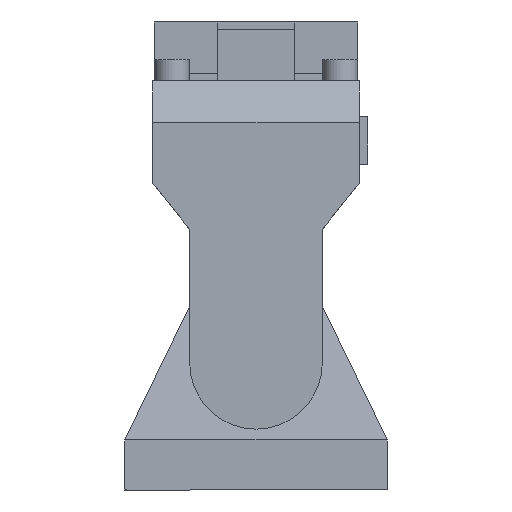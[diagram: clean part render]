
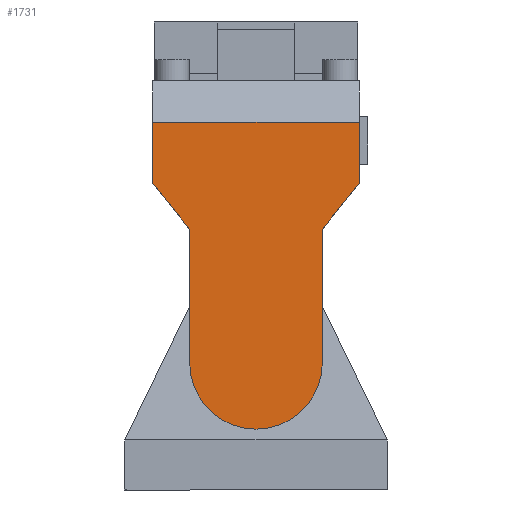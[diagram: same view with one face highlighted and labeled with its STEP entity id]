
A CAD part, left-side view. The second image highlights one B-rep face of the part: STEP entity #1731.
In plain terms, the highlighted planar face has unit normal (-1, 0, 0).
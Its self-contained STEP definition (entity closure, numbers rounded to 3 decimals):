
#74=CIRCLE('',#1950,47.314);
#128=FACE_OUTER_BOUND('',#226,.T.);
#226=EDGE_LOOP('',(#1204,#1205,#1206,#1207,#1208,#1209,#1210,#1211));
#347=LINE('',#2632,#556);
#348=LINE('',#2634,#557);
#349=LINE('',#2636,#558);
#350=LINE('',#2638,#559);
#351=LINE('',#2640,#560);
#352=LINE('',#2642,#561);
#353=LINE('',#2643,#562);
#556=VECTOR('',#2149,10.);
#557=VECTOR('',#2150,10.);
#558=VECTOR('',#2151,10.);
#559=VECTOR('',#2152,10.);
#560=VECTOR('',#2153,10.);
#561=VECTOR('',#2154,10.);
#562=VECTOR('',#2155,10.);
#768=VERTEX_POINT('',#2628);
#769=VERTEX_POINT('',#2629);
#770=VERTEX_POINT('',#2631);
#771=VERTEX_POINT('',#2633);
#772=VERTEX_POINT('',#2635);
#773=VERTEX_POINT('',#2637);
#774=VERTEX_POINT('',#2639);
#775=VERTEX_POINT('',#2641);
#940=EDGE_CURVE('',#768,#769,#74,.T.);
#941=EDGE_CURVE('',#768,#770,#347,.T.);
#942=EDGE_CURVE('',#770,#771,#348,.T.);
#943=EDGE_CURVE('',#771,#772,#349,.T.);
#944=EDGE_CURVE('',#772,#773,#350,.T.);
#945=EDGE_CURVE('',#774,#773,#351,.T.);
#946=EDGE_CURVE('',#775,#774,#352,.T.);
#947=EDGE_CURVE('',#769,#775,#353,.T.);
#1204=ORIENTED_EDGE('',*,*,#940,.F.);
#1205=ORIENTED_EDGE('',*,*,#941,.T.);
#1206=ORIENTED_EDGE('',*,*,#942,.T.);
#1207=ORIENTED_EDGE('',*,*,#943,.T.);
#1208=ORIENTED_EDGE('',*,*,#944,.T.);
#1209=ORIENTED_EDGE('',*,*,#945,.F.);
#1210=ORIENTED_EDGE('',*,*,#946,.F.);
#1211=ORIENTED_EDGE('',*,*,#947,.F.);
#1645=PLANE('',#1949);
#1731=ADVANCED_FACE('',(#128),#1645,.F.);
#1949=AXIS2_PLACEMENT_3D('',#2627,#2145,#2146);
#1950=AXIS2_PLACEMENT_3D('',#2630,#2147,#2148);
#2145=DIRECTION('center_axis',(1.,0.,0.));
#2146=DIRECTION('ref_axis',(0.,0.,-1.));
#2147=DIRECTION('center_axis',(1.,0.,0.));
#2148=DIRECTION('ref_axis',(0.,-1.,0.));
#2149=DIRECTION('',(0.,0.,1.));
#2150=DIRECTION('',(0.,-0.627,0.779));
#2151=DIRECTION('',(0.,0.,1.));
#2152=DIRECTION('',(0.,1.,0.));
#2153=DIRECTION('',(0.,0.,1.));
#2154=DIRECTION('',(0.,0.627,0.779));
#2155=DIRECTION('',(0.,0.,1.));
#2627=CARTESIAN_POINT('Origin',(-203.5,0.,-29.5));
#2628=CARTESIAN_POINT('',(-203.5,-47.314,-201.012));
#2629=CARTESIAN_POINT('',(-203.5,47.314,-201.012));
#2630=CARTESIAN_POINT('Origin',(-203.5,0.,-201.012));
#2631=CARTESIAN_POINT('',(-203.5,-47.314,-105.696));
#2632=CARTESIAN_POINT('',(-203.5,-47.314,-67.598));
#2633=CARTESIAN_POINT('',(-203.5,-73.496,-73.183));
#2634=CARTESIAN_POINT('',(-203.5,-69.71,-77.884));
#2635=CARTESIAN_POINT('',(-203.5,-73.496,-29.5));
#2636=CARTESIAN_POINT('',(-203.5,-73.496,93.756));
#2637=CARTESIAN_POINT('',(-203.5,73.496,-29.5));
#2638=CARTESIAN_POINT('',(-203.5,0.,-29.5));
#2639=CARTESIAN_POINT('',(-203.5,73.496,-73.183));
#2640=CARTESIAN_POINT('',(-203.5,73.496,93.756));
#2641=CARTESIAN_POINT('',(-203.5,47.314,-105.696));
#2642=CARTESIAN_POINT('',(-203.5,69.71,-77.884));
#2643=CARTESIAN_POINT('',(-203.5,47.314,-67.598));
